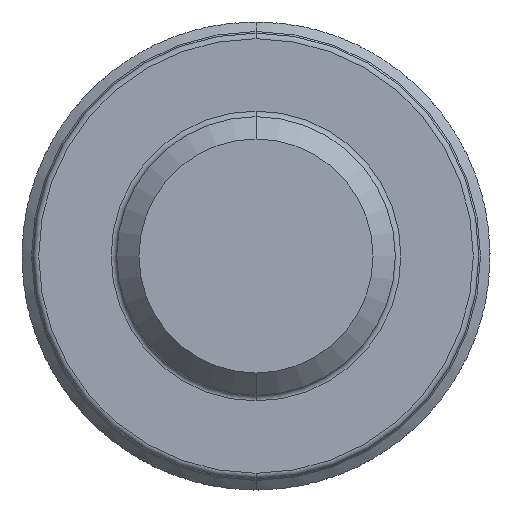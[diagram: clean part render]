
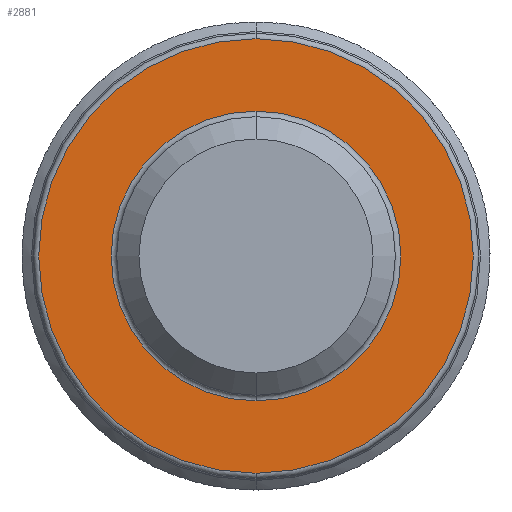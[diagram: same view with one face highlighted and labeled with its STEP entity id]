
A CAD part, front view. The second image highlights one B-rep face of the part: STEP entity #2881.
In plain terms, the highlighted planar face has unit normal (0, -1, 0).
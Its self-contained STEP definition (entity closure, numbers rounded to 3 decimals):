
#167 = CIRCLE ( 'NONE', #5575, 2.6 ) ;
#721 = VERTEX_POINT ( 'NONE', #2689 ) ;
#812 = CARTESIAN_POINT ( 'NONE',  ( 0., -5., 0. ) ) ;
#1165 = FACE_BOUND ( 'NONE', #1825, .T. ) ;
#1188 = VERTEX_POINT ( 'NONE', #4408 ) ;
#1326 = CARTESIAN_POINT ( 'NONE',  ( 0., -5., 0. ) ) ;
#1411 = ORIENTED_EDGE ( 'NONE', *, *, #6498, .T. ) ;
#1452 = DIRECTION ( 'NONE',  ( 0., 0., -1. ) ) ;
#1564 = AXIS2_PLACEMENT_3D ( 'NONE', #5474, #4875, #8099 ) ;
#1751 = EDGE_CURVE ( 'NONE', #721, #3952, #6564, .T. ) ;
#1825 = EDGE_LOOP ( 'NONE', ( #2056, #1411 ) ) ;
#2056 = ORIENTED_EDGE ( 'NONE', *, *, #3858, .T. ) ;
#2285 = VERTEX_POINT ( 'NONE', #5103 ) ;
#2689 = CARTESIAN_POINT ( 'NONE',  ( 0., -5., -3.9 ) ) ;
#2881 = ADVANCED_FACE ( 'NONE', ( #1165, #6354 ), #3091, .T. ) ;
#3091 = PLANE ( 'NONE',  #4713 ) ;
#3722 = DIRECTION ( 'NONE',  ( 0., -1., 0. ) ) ;
#3858 = EDGE_CURVE ( 'NONE', #1188, #2285, #8089, .T. ) ;
#3880 = DIRECTION ( 'NONE',  ( 0., -1., 0. ) ) ;
#3952 = VERTEX_POINT ( 'NONE', #5067 ) ;
#4354 = CARTESIAN_POINT ( 'NONE',  ( 2.5, -5., 0. ) ) ;
#4375 = ORIENTED_EDGE ( 'NONE', *, *, #6398, .T. ) ;
#4408 = CARTESIAN_POINT ( 'NONE',  ( 0., -5., -2.6 ) ) ;
#4706 = DIRECTION ( 'NONE',  ( 0., -1., 0. ) ) ;
#4713 = AXIS2_PLACEMENT_3D ( 'NONE', #4354, #3722, #6314 ) ;
#4875 = DIRECTION ( 'NONE',  ( 0., 1., 0. ) ) ;
#5067 = CARTESIAN_POINT ( 'NONE',  ( 0., -5., 3.9 ) ) ;
#5103 = CARTESIAN_POINT ( 'NONE',  ( 0., -5., 2.6 ) ) ;
#5301 = CIRCLE ( 'NONE', #7173, 3.9 ) ;
#5474 = CARTESIAN_POINT ( 'NONE',  ( 0., -5., 0. ) ) ;
#5575 = AXIS2_PLACEMENT_3D ( 'NONE', #812, #7277, #1452 ) ;
#5717 = ORIENTED_EDGE ( 'NONE', *, *, #1751, .T. ) ;
#6011 = EDGE_LOOP ( 'NONE', ( #5717, #4375 ) ) ;
#6314 = DIRECTION ( 'NONE',  ( 0., 0., -1. ) ) ;
#6354 = FACE_OUTER_BOUND ( 'NONE', #6011, .T. ) ;
#6398 = EDGE_CURVE ( 'NONE', #3952, #721, #5301, .T. ) ;
#6474 = DIRECTION ( 'NONE',  ( 0., 0., -1. ) ) ;
#6498 = EDGE_CURVE ( 'NONE', #2285, #1188, #167, .T. ) ;
#6564 = CIRCLE ( 'NONE', #7644, 3.9 ) ;
#6745 = CARTESIAN_POINT ( 'NONE',  ( 0., -5., 0. ) ) ;
#7173 = AXIS2_PLACEMENT_3D ( 'NONE', #1326, #3880, #6474 ) ;
#7277 = DIRECTION ( 'NONE',  ( 0., 1., 0. ) ) ;
#7644 = AXIS2_PLACEMENT_3D ( 'NONE', #6745, #4706, #7878 ) ;
#7878 = DIRECTION ( 'NONE',  ( 0., 0., -1. ) ) ;
#8089 = CIRCLE ( 'NONE', #1564, 2.6 ) ;
#8099 = DIRECTION ( 'NONE',  ( 0., 0., -1. ) ) ;
